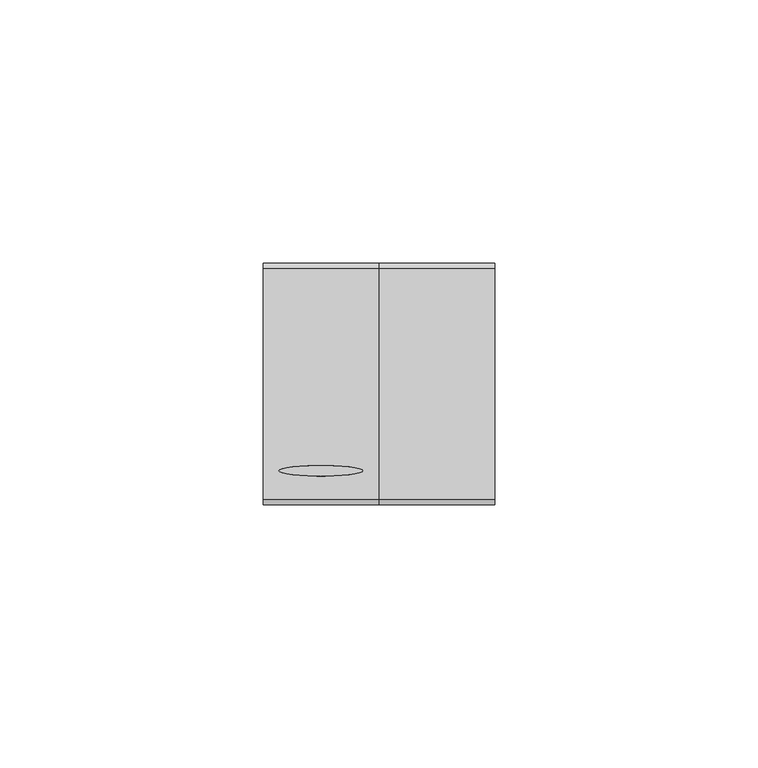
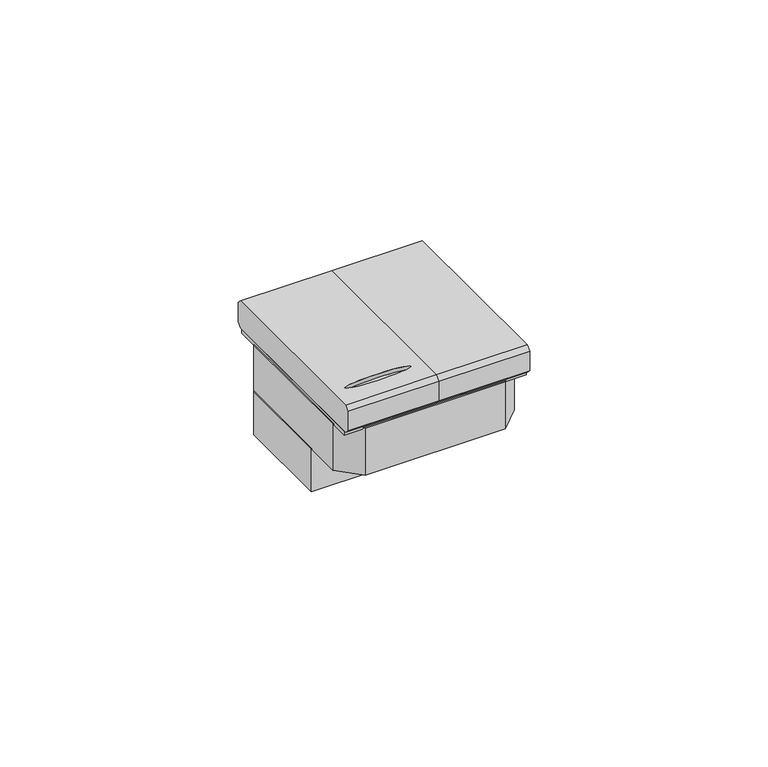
"""IFC4 building model written with IfcOpenShell, lengths in millimetres: proxy geometry, L4408N LL Dimmer resistivo induttivo 600W : L4408N LL Dimmer resistivo induttivo 600W."""

from ifc_helpers import new_model, si_unit, point, frame, origin, origin_with_axes, place, context, project, spatial, polyline, ellipse_curve, trimmed, outline, extrude, source, transform, mapped, element, save
from ifc_brep_helpers import plane_surface, extruded_surface, advanced_brep


def electrical_fixtures_c45db058(model_context):
    return source(origin(), model_context, "Body", "SolidModel", [
        advanced_brep(
        [(0.0, -22.0, 1.0), (0.0, 22.0, 1.0), (0.0, 22.9899495, 1.9899495), (0.0, 22.9899495, 6.9899495), (0.0, 22.0, 7.979899), (0.0, -22.0, 7.979899), (0.0, -22.9899495, 6.9899495), (0.0, -22.9899495, 1.9899495), (-22.0, -22.0, 1.0), (-22.0, -22.9899495, 1.9899495), (-22.0, -22.9899495, 6.9899495), (-22.0, -22.0, 7.979899), (-22.0, 22.0, 7.979899), (-22.0, 22.9899495, 6.9899495), (-22.0, 22.9899495, 1.9899495), (-22.0, 22.0, 1.0), (-19.0, -16.5, 7.979899), (-3.0, -16.5, 7.979899), (-3.0, -16.5, 7.0), (-19.0, -16.5, 7.0)],
        [
            (0, 1),
            (1, 2),
            (2, 3),
            (3, 4),
            (4, 5),
            (5, 6),
            (6, 7),
            (7, 0),
            (8, 9),
            (9, 10),
            (10, 11),
            (11, 12),
            (12, 13),
            (13, 14),
            (14, 15),
            (15, 8),
            (0, 8),
            (15, 1),
            (5, 11),
            (10, 6),
            (9, 7),
            (14, 2),
            (13, 3),
            (12, 4),
            (16, 17, ellipse_curve(frame((-11.0, -16.5, 7.979899), z_axis=(0.0, 0.0, -1.0), x_axis=(-1.0, 0.0, 0.0)), 8.0, 1.0)),
            (17, 16, ellipse_curve(frame((-11.0, -16.5, 7.979899), z_axis=(0.0, 0.0, -1.0), x_axis=(-1.0, 0.0, 0.0)), 8.0, 1.0)),
            (18, 19, ellipse_curve(frame((-11.0, -16.5, 7.0), z_axis=(0.0, 0.0, 1.0), x_axis=(-1.0, 0.0, 0.0)), 8.0, 1.0)),
            (19, 18, ellipse_curve(frame((-11.0, -16.5, 7.0), z_axis=(0.0, 0.0, 1.0), x_axis=(-1.0, 0.0, 0.0)), 8.0, 1.0)),
            (18, 17),
            (16, 19),
        ],
        [
            plane_surface(frame((0.0, 0.0, 1.0), z_axis=(1.0, 0.0, 0.0), x_axis=(0.0, 1.0, 0.0))),
            plane_surface(frame((-22.0, 0.0, 1.0), z_axis=(-1.0, 0.0, 0.0), x_axis=(0.0, -1.0, 0.0))),
            plane_surface(frame((0.0, -22.0, 1.0), z_axis=(0.0, 0.0, -1.0), x_axis=(-1.0, 0.0, 0.0))),
            plane_surface(frame((0.0, -22.0, 7.979899), z_axis=(0.0, -0.7071067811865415, 0.7071067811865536), x_axis=(-1.0, 0.0, 0.0))),
            plane_surface(frame((0.0, -22.9899495, 6.9899495), z_axis=(0.0, -1.0, 0.0), x_axis=(-1.0, 0.0, 0.0))),
            plane_surface(frame((0.0, -22.9899495, 1.9899495), z_axis=(0.0, -0.707106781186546, -0.707106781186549), x_axis=(-1.0, 0.0, 0.0))),
            plane_surface(frame((0.0, 22.0, 1.0), z_axis=(0.0, 0.7071067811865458, -0.7071067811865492), x_axis=(-1.0, 0.0, 0.0))),
            plane_surface(frame((0.0, 22.9899495, 1.9899495), z_axis=(0.0, 1.0, 0.0), x_axis=(-1.0, 0.0, 0.0))),
            plane_surface(frame((0.0, 22.9899495, 6.9899495), z_axis=(0.0, 0.7071067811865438, 0.7071067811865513), x_axis=(-1.0, 0.0, 0.0))),
            plane_surface(frame((0.0, 22.0, 7.979899), z_axis=(0.0, 0.0, 1.0), x_axis=(-1.0, 0.0, 0.0))),
            plane_surface(frame((-19.0, -16.5, 7.0), z_axis=(0.0, 0.0, 1.0), x_axis=(0.0, 1.0, 0.0))),
            extruded_surface(trimmed(ellipse_curve(frame((-11.0, -16.5, 7.0), z_axis=(0.0, 0.0, 1.0), x_axis=(-1.0, 0.0, 0.0)), 8.0, 1.0), [point((-3.0, -16.5, 7.0))], [point((-19.0, -16.5, 7.0))], True, "CARTESIAN"), (0.0, 0.0, -0.9798989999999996), 0.9798989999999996),
            extruded_surface(trimmed(ellipse_curve(frame((-11.0, -16.5, 7.0), z_axis=(0.0, 0.0, 1.0), x_axis=(-1.0, 0.0, 0.0)), 8.0, 1.0), [point((-19.0, -16.5, 7.0))], [point((-3.0, -16.5, 7.0))], True, "CARTESIAN"), (0.0, 0.0, -0.9798989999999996), 0.9798989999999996),
        ],
        [
            (0, [[1, 2, 3, 4, 5, 6, 7, 8]]),
            (1, [[9, 10, 11, 12, 13, 14, 15, 16]]),
            (2, [[-1, 17, -16, 18]]),
            (3, [[-6, 19, -11, 20]]),
            (4, [[-7, -20, -10, 21]]),
            (5, [[-8, -21, -9, -17]]),
            (6, [[-2, -18, -15, 22]]),
            (7, [[-3, -22, -14, 23]]),
            (8, [[-4, -23, -13, 24]]),
            (9, [[-5, -24, -12, -19], [25, 26]]),
            (10, [[27, 28]]),
            (11, [[-27, 29, -25, 30]]),
            (12, [[-28, -30, -26, -29]]),
        ],
    ),
        extrude(outline(polyline([(-22.0, 1.0), (-22.9899495, 1.9899495), (-22.9899495, 6.9899495), (-22.0, 7.979899), (22.0, 7.979899), (22.9899495, 6.9899495), (22.9899495, 1.9899495), (22.0, 1.0), (-22.0, 1.0)])), frame((0.0, 0.0, 0.0), z_axis=(1.0, 0.0, 0.0), x_axis=(0.0, 1.0, 0.0)), (0.0, 0.0, 1.0), 22.0),
        extrude(outline(polyline([(-22.0, -7.5), (-22.0, 16.5), (-20.0, 18.5), (20.0, 18.5), (22.0, 16.5), (22.0, -7.5), (-22.0, -7.5)])), frame((0.0, 0.0, -23.0), z_axis=(0.0, 0.0, 1.0), x_axis=(1.0, 0.0, 0.0)), (0.0, 0.0, 1.0), 11.0),
        extrude(outline(polyline([(22.0, -16.5), (17.0, -21.5), (-17.0, -21.5), (-22.0, -16.5), (-22.0, 16.5), (-17.0, 21.5), (17.0, 21.5), (22.0, 16.5), (22.0, -16.5)])), frame((0.0, 0.0, -12.0), z_axis=(0.0, 0.0, 1.0), x_axis=(1.0, 0.0, 0.0)), (0.0, 0.0, 1.0), 12.0),
        extrude(outline(polyline([(22.0, -21.5), (-22.0, -21.5), (-22.0, 21.5), (22.0, 21.5), (22.0, -21.5)])), origin_with_axes(), (0.0, 0.0, 1.0), 1.0),
    ])


if __name__ == "__main__":
    model = new_model("IFC4")
    model_context = context("Model", 3, world=origin())
    ifc_project = project(units=[si_unit("LENGTHUNIT", "METRE", prefix="MILLI")], contexts=[model_context])
    site = spatial("IfcSite", under=ifc_project)
    building = spatial("IfcBuilding", under=site)
    placement = place(None, origin())
    electrical_fixtures_shape = electrical_fixtures_c45db058(model_context)
    element("IfcBuildingElementProxy", 1, Name="L4408N LL Dimmer resistivo induttivo 600W : L4408N LL Dimmer resistivo induttivo 600W", ObjectType="L4408N LL Dimmer resistivo induttivo 600W : L4408N LL Dimmer resistivo induttivo 600W", at=placement, inside=building, context=model_context, shape_type="MappedRepresentation", body=[
        mapped(electrical_fixtures_shape, transform((0.0, 0.0, 0.0), x_axis=(1.0, 0.0, 0.0), y_axis=(0.0, 1.0, 0.0), z_axis=(0.0, 0.0, 1.0))),
    ])
    save(model, "model.ifc")
